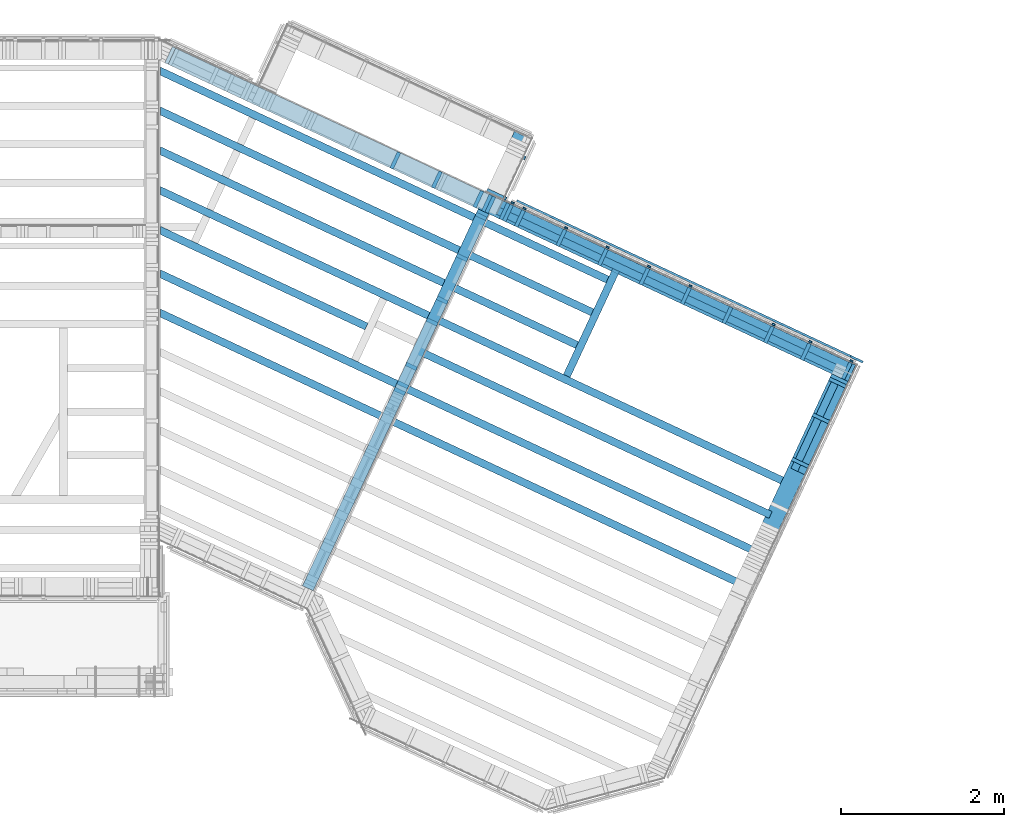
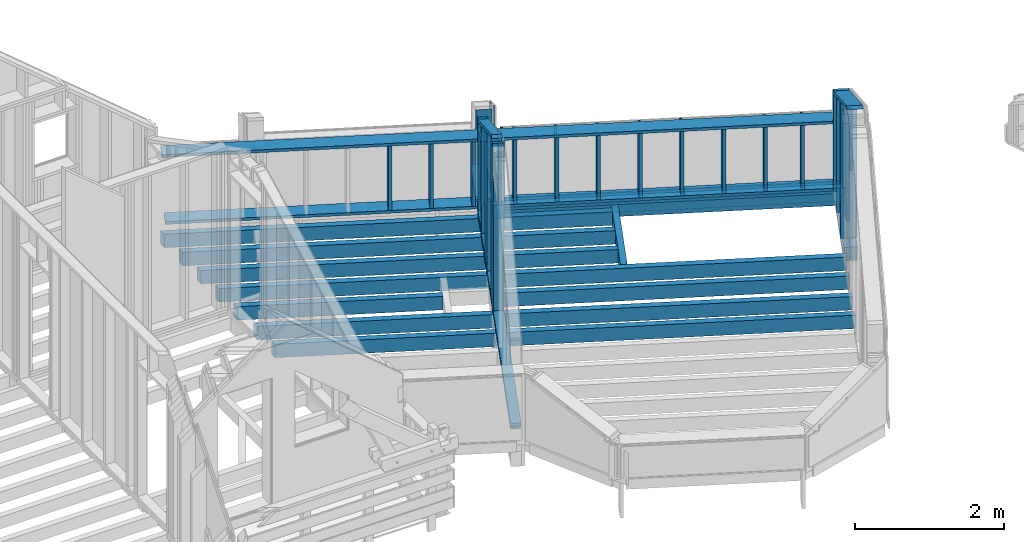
# One storey, part 9 of 24: 64 members.
"""IFC2X3 building model written with IfcOpenShell, lengths in metres."""

from ifc_helpers import new_model, si_unit, direction, frame, origin_with_axes, place, context, subcontext, project, spatial, faceted_brep, material, element, save


model = new_model("IFC2X3")

# Units and contexts
model_context = context("Model", 3, precision=1e-06, world=origin_with_axes(), true_north=direction((0.0, 1.0, 0.0)))
body_context = subcontext(model_context, "Body", "Model", "MODEL_VIEW")
ifc_project = project(units=[si_unit("LENGTHUNIT", "METRE"), si_unit("AREAUNIT", "SQUARE_METRE"), si_unit("VOLUMEUNIT", "CUBIC_METRE"), si_unit("PLANEANGLEUNIT", "RADIAN")], contexts=[model_context])

# Site, building, storey
site_placement = place(None, origin_with_axes())
site = spatial("IfcSite", under=ifc_project, at=site_placement, CompositionType="ELEMENT")
building_placement = place(site_placement, origin_with_axes())
building = spatial("IfcBuilding", under=site, at=building_placement, Name="Building 1", CompositionType="ELEMENT")
storey_placement = place(building_placement, origin_with_axes())
storey = spatial("IfcBuildingStorey", under=building, at=storey_placement, Name="Premier Etage", CompositionType="ELEMENT", Elevation=0.0)

# Members
ifc_material_1 = material(Name="NH II")
member_1_placement = place(storey_placement, frame((6.7085595, 6.0787803, 2.695), z_axis=(0.0, 0.0, -1.0), x_axis=(0.9063078, -0.4226183, 0.0)))
element("IfcMember", 1, at=member_1_placement, inside=storey, material=ifc_material_1, Name="Solive", context=body_context, shape_type="Brep", body=[
    faceted_brep([(0.0429003, 0.046, -0.11), (0.0, -0.046, -0.11), (0.0, -0.046, 0.11), (0.0429003, 0.046, 0.11), (8.4684881, -0.046, -0.11), (8.4684881, -0.046, 0.11), (8.4684881, 0.046, -0.11), (8.4684881, 0.046, 0.11)], [[[0, 1, 2, 3]], [[2, 1, 4, 5]], [[1, 0, 6, 4]], [[5, 4, 6, 7]], [[0, 3, 7, 6]], [[3, 2, 5, 7]]]),
])
ifc_material_2 = material(Name="Epicéa C24")
member_2_placement = place(storey_placement, frame((15.1871207, 3.9851601, 3.9860549), z_axis=(0.4226183, 0.9063078, 0.0), x_axis=(0.0, 0.0, -1.0)))
element("IfcMember", 2, at=member_2_placement, inside=storey, material=ifc_material_2, Name="latte 27/40", context=body_context, shape_type="Brep", body=[
    faceted_brep([(1.1360549, -0.02, -0.012), (1.1360549, -0.02, 0.012), (0.0, -0.02, 0.012), (0.0, -0.02, -0.012), (1.1360549, 0.02, -0.012), (0.0, 0.02, -0.012), (1.1360549, 0.02, 0.012), (0.0, 0.02, 0.012)], [[[0, 1, 2, 3]], [[4, 0, 3, 5]], [[6, 4, 5, 7]], [[1, 6, 7, 2]], [[4, 6, 1, 0]], [[2, 7, 5, 3]]]),
])
member_3_placement = place(storey_placement, frame((6.7085595, 7.0539681, 2.695), z_axis=(0.0, 0.0, -1.0), x_axis=(0.9063078, -0.4226183, 0.0)))
element("IfcMember", 3, at=member_3_placement, inside=storey, material=ifc_material_1, Name="Solive", context=body_context, shape_type="Brep", body=[
    faceted_brep([(0.0, -0.046, -0.11), (0.0, -0.046, 0.11), (0.0429003, 0.046, 0.11), (0.0429003, 0.046, -0.11), (5.8533161, -0.046, 0.11), (5.8533161, 0.046, 0.11), (5.8533161, -0.046, -0.11), (5.8533161, 0.046, -0.11)], [[[0, 1, 2, 3]], [[2, 1, 4, 5]], [[1, 0, 6, 4]], [[0, 3, 7, 6]], [[3, 2, 5, 7]], [[4, 6, 7, 5]]]),
])
member_4_placement = place(storey_placement, frame((10.8242673, 6.0300741, 4.3051126), z_axis=(0.9063078, -0.4226183, 0.0), x_axis=(0.0, 0.0, -1.0)))
element("IfcMember", 4, at=member_4_placement, inside=storey, material=ifc_material_2, Name="Montant", context=body_context, shape_type="Brep", body=[
    faceted_brep([(0.0259808, 0.0225, 0.11), (0.0, -0.0225, 0.11), (1.4101126, -0.0225, 0.11), (1.4101126, 0.0225, 0.11), (0.0, -0.0225, -0.11), (1.4101126, -0.0225, -0.11), (0.0259808, 0.0225, -0.11), (1.4101126, 0.0225, -0.11)], [[[0, 1, 2, 3]], [[1, 4, 5, 2]], [[4, 6, 7, 5]], [[6, 0, 3, 7]], [[0, 6, 4, 1]], [[5, 7, 3, 2]]]),
])
member_5_placement = place(storey_placement, frame((15.2529941, 4.0057499, 2.97), z_axis=(0.9063078, -0.4226183, 0.0), x_axis=(0.0, 0.0, 1.0)))
element("IfcMember", 5, at=member_5_placement, inside=storey, material=ifc_material_1, Name="contre poutre", context=body_context, shape_type="Brep", body=[
    faceted_brep([(1.0160549, 0.0135, -0.0825), (1.0160549, 0.0135, 0.0825), (1.0160549, -0.0135, 0.0825), (1.0160549, -0.0135, -0.0825), (0.0, 0.0135, 0.0825), (0.0, 0.0135, -0.0825), (0.0, -0.0135, -0.0825), (0.0, -0.0135, 0.0825)], [[[0, 1, 2, 3]], [[4, 5, 6, 7]], [[3, 6, 5, 0]], [[2, 7, 6, 3]], [[1, 4, 7, 2]], [[0, 5, 4, 1]]]),
])
member_6_placement = place(storey_placement, frame((15.0598284, 3.8955614, 2.8275), z_axis=(-0.4226183, -0.9063078, 0.0), x_axis=(-0.9063078, 0.4226183, 0.0)))
element("IfcMember", 6, at=member_6_placement, inside=storey, material=ifc_material_2, Name="Lisse basse", context=body_context, shape_type="Brep", body=[
    faceted_brep([(4.850806, -0.0225, 0.11), (4.850806, -0.0225, -0.11), (4.850806, 0.0225, -0.11), (4.850806, 0.0225, 0.11), (0.0, -0.0225, -0.11), (0.0, 0.0225, -0.11), (0.0, -0.0225, 0.11), (0.0, 0.0225, 0.11)], [[[0, 1, 2, 3]], [[2, 1, 4, 5]], [[1, 0, 6, 4]], [[0, 3, 7, 6]], [[4, 6, 7, 5]], [[3, 2, 5, 7]]]),
])
member_7_placement = place(storey_placement, frame((14.1309791, 1.8208207, 5.7137909), z_axis=(-0.9063078, 0.4226183, 0.0), x_axis=(0.3659982, 0.7848856, -0.5)))
element("IfcMember", 7, at=member_7_placement, inside=storey, material=ifc_material_2, Name="Montant", context=body_context, shape_type="Brep", body=[
    faceted_brep([(2.4585333, 0.0225, -0.11), (2.4585333, 0.0225, 0.11), (2.4325526, -0.0225, 0.11), (2.4325526, -0.0225, -0.11), (0.0, 0.0225, 0.11), (0.0779423, -0.0225, 0.11), (0.0, 0.0225, -0.11), (0.0779423, -0.0225, -0.11)], [[[0, 1, 2, 3]], [[2, 1, 4, 5]], [[1, 0, 6, 4]], [[7, 5, 4, 6]], [[3, 2, 5, 7]], [[0, 3, 7, 6]]]),
])
member_8_placement = place(storey_placement, frame((6.7085595, 4.5791368, 2.695), z_axis=(0.0, 0.0, -1.0), x_axis=(0.9063078, -0.4226183, 0.0)))
element("IfcMember", 8, at=member_8_placement, inside=storey, material=ifc_material_1, Name="Solive", context=body_context, shape_type="Brep", body=[
    faceted_brep([(0.0, -0.046, -0.11), (0.0, -0.046, 0.11), (0.0429003, 0.046, 0.11), (0.0429003, 0.046, -0.11), (7.8347114, -0.046, 0.11), (7.8347114, 0.046, 0.11), (7.8347114, -0.046, -0.11), (7.8347114, 0.046, -0.11)], [[[0, 1, 2, 3]], [[2, 1, 4, 5]], [[1, 0, 6, 4]], [[5, 4, 6, 7]], [[0, 3, 7, 6]], [[3, 2, 5, 7]]]),
])
member_9_placement = place(storey_placement, frame((10.6732155, 5.794875, 4.3473197), z_axis=(0.9063078, -0.4226183, 0.0), x_axis=(0.0, 0.0, -1.0)))
element("IfcMember", 9, at=member_9_placement, inside=storey, material=ifc_material_2, Name="Montant", context=body_context, shape_type="Brep", body=[
    faceted_brep([(0.0, -0.0225, 0.0725), (0.0, 0.0225, 0.0725), (0.0, 0.0225, -0.0725), (0.0, -0.0225, -0.0725), (1.4523197, 0.0225, 0.0725), (1.4523197, 0.0225, -0.0725), (1.4523197, -0.0225, 0.0725), (1.4523197, -0.0225, -0.0725)], [[[0, 1, 2, 3]], [[2, 1, 4, 5]], [[1, 0, 6, 4]], [[0, 3, 7, 6]], [[3, 2, 5, 7]], [[7, 5, 4, 6]]]),
])
member_10_placement = place(storey_placement, frame((15.0355522, 3.760684, 4.5170002), z_axis=(0.9063078, -0.4226183, 0.0), x_axis=(0.0, 0.0, -1.0)))
element("IfcMember", 10, at=member_10_placement, inside=storey, material=ifc_material_2, Name="Montant", context=body_context, shape_type="Brep", body=[
    faceted_brep([(0.0, 0.0225, -0.11), (0.0, -0.0225, -0.11), (0.0, -0.0225, 0.11), (0.0, 0.0225, 0.11), (1.6220002, -0.0225, -0.11), (1.6220002, -0.0225, 0.11), (1.6220002, 0.0225, -0.11), (1.6220002, 0.0225, 0.11)], [[[0, 1, 2, 3]], [[2, 1, 4, 5]], [[1, 0, 6, 4]], [[0, 3, 7, 6]], [[3, 2, 5, 7]], [[4, 6, 7, 5]]]),
])
member_11_placement = place(storey_placement, frame((15.191243, 3.8342818, 3.9685549), z_axis=(-0.4226183, -0.9063078, 0.0), x_axis=(-0.9063078, 0.4226183, 0.0)))
element("IfcMember", 11, at=member_11_placement, inside=storey, material=ifc_material_2, Name="Montant", context=body_context, shape_type="Brep", body=[
    faceted_brep([(9.2299483, 0.0225, 0.11), (9.2299483, -0.0225, 0.11), (9.2299483, -0.0225, -0.11), (9.2299483, 0.0225, -0.11), (0.0, -0.0225, 0.11), (0.0, -0.0225, -0.11), (0.0, 0.0225, 0.11), (0.0, 0.0225, -0.11)], [[[0, 1, 2, 3]], [[2, 1, 4, 5]], [[1, 0, 6, 4]], [[6, 7, 5, 4]], [[0, 3, 7, 6]], [[3, 2, 5, 7]]]),
])
member_12_placement = place(storey_placement, frame((14.6841199, 4.2197132, 3.9860549), z_axis=(0.4226183, 0.9063078, 0.0), x_axis=(0.0, 0.0, -1.0)))
element("IfcMember", 12, at=member_12_placement, inside=storey, material=ifc_material_2, Name="latte 27/40", context=body_context, shape_type="Brep", body=[
    faceted_brep([(1.1760549, -0.02, 0.012), (0.0, -0.02, 0.012), (0.0, -0.02, -0.012), (1.1760549, -0.02, -0.012), (1.1760549, 0.02, -0.012), (0.0, 0.02, -0.012), (0.0, 0.02, 0.012), (1.1760549, 0.02, 0.012)], [[[0, 1, 2, 3]], [[4, 3, 2, 5]], [[6, 7, 4, 5]], [[0, 7, 6, 1]], [[7, 0, 3, 4]], [[1, 6, 5, 2]]]),
])
member_13_placement = place(storey_placement, frame((15.1708511, 3.8437907, 3.9460549), z_axis=(0.4226183, 0.9063078, 0.0), x_axis=(0.0, 0.0, -1.0)))
element("IfcMember", 13, at=member_13_placement, inside=storey, material=ifc_material_2, Name="Montant", context=body_context, shape_type="Brep", body=[
    faceted_brep([(1.5960549, 0.0225, 0.11), (0.0, 0.0225, 0.11), (0.0, -0.0225, 0.11), (1.5960549, -0.0225, 0.11), (0.0, 0.0225, -0.11), (0.0, -0.0225, -0.11), (1.5960549, 0.0225, -0.11), (1.5960549, -0.0225, -0.11)], [[[0, 1, 2, 3]], [[1, 4, 5, 2]], [[6, 4, 1, 0]], [[7, 5, 4, 6]], [[3, 2, 5, 7]], [[6, 0, 3, 7]]]),
])
for number, where, z_axis, x_axis, name in (
    (14, (14.6270664, 4.0973617, 3.9460549), (0.4226183, 0.9063078, 0.0), (0.0, 0.0, -1.0), "Montant"),
    (15, (14.1765408, 4.3074452, 3.9460549), (0.4226183, 0.9063078, 0.0), (0.0, 0.0, -1.0), "Montant"),
    (16, (15.1300672, 3.8628085, 3.9460549), (0.4226183, 0.9063078, 0.0), (0.0, 0.0, -1.0), "Montant"),
):
    element("IfcMember", number, at=place(storey_placement, frame(where, z_axis=z_axis, x_axis=x_axis)), inside=storey, material=ifc_material_2, Name=name, context=body_context, shape_type="Brep", body=[
        faceted_brep([(1.0510549, -0.0225, -0.11), (1.0510549, 0.0225, -0.11), (1.0510549, 0.0225, 0.11), (1.0510549, -0.0225, 0.11), (0.0, -0.0225, 0.11), (0.0, -0.0225, -0.11), (0.0, 0.0225, -0.11), (0.0, 0.0225, 0.11)], [[[0, 1, 2, 3]], [[0, 3, 4, 5]], [[1, 0, 5, 6]], [[2, 1, 6, 7]], [[3, 2, 7, 4]], [[4, 7, 6, 5]]]),
    ])
member_14_placement = place(storey_placement, frame((15.1504591, 3.8532996, 2.8725), z_axis=(-0.4226183, -0.9063078, 0.0), x_axis=(-0.9063078, 0.4226183, 0.0)))
element("IfcMember", 17, at=member_14_placement, inside=storey, material=ifc_material_2, Name="Montant", context=body_context, shape_type="Brep", body=[
    faceted_brep([(9.1399483, -0.0225, -0.11), (9.1399483, 0.0225, -0.11), (9.1399483, 0.0225, 0.11), (9.1399483, -0.0225, 0.11), (0.0, 0.0225, -0.11), (0.0, 0.0225, 0.11), (0.0, -0.0225, -0.11), (0.0, -0.0225, 0.11)], [[[0, 1, 2, 3]], [[2, 1, 4, 5]], [[1, 0, 6, 4]], [[0, 3, 7, 6]], [[3, 2, 5, 7]], [[4, 6, 7, 5]]]),
])
member_15_placement = place(storey_placement, frame((11.0873262, 5.9482327, 2.7225), z_axis=(0.0, 0.0, -1.0), x_axis=(0.9063078, -0.4226183, 0.0)))
element("IfcMember", 18, at=member_15_placement, inside=storey, material=ifc_material_1, Name="contre poutre", context=body_context, shape_type="Brep", body=[
    faceted_brep([(4.513806, 0.0135, -0.0825), (4.513806, 0.0135, 0.0825), (4.513806, -0.0135, 0.0825), (4.513806, -0.0135, -0.0825), (0.0, 0.0135, 0.0825), (0.0, 0.0135, -0.0825), (0.0, -0.0135, -0.0825), (0.0, -0.0135, 0.0825)], [[[0, 1, 2, 3]], [[4, 5, 6, 7]], [[3, 6, 5, 0]], [[2, 7, 6, 3]], [[1, 4, 7, 2]], [[0, 5, 4, 1]]]),
])
member_16_placement = place(storey_placement, frame((9.6022242, 6.440484, 3.9460549), z_axis=(0.4226183, 0.9063078, 0.0), x_axis=(0.0, 0.0, -1.0)))
element("IfcMember", 19, at=member_16_placement, inside=storey, material=ifc_material_2, Name="Montant", context=body_context, shape_type="Brep", body=[
    faceted_brep([(1.0510549, -0.0225, -0.11), (1.0510549, 0.0225, -0.11), (1.0510549, 0.0225, 0.11), (1.0510549, -0.0225, 0.11), (0.0, -0.0225, 0.11), (0.0, -0.0225, -0.11), (0.0, 0.0225, -0.11), (0.0, 0.0225, 0.11)], [[[0, 1, 2, 3]], [[0, 3, 4, 5]], [[1, 0, 5, 6]], [[2, 1, 6, 7]], [[3, 2, 7, 4]], [[4, 7, 6, 5]]]),
])
member_17_placement = place(storey_placement, frame((10.809687, 5.9988065, 2.8275), z_axis=(-0.9063078, 0.4226183, 0.0), x_axis=(0.4226183, 0.9063078, 0.0)))
element("IfcMember", 20, at=member_17_placement, inside=storey, material=ifc_material_2, Name="Lisse basse", context=body_context, shape_type="Brep", body=[
    faceted_brep([(0.0, 0.0225, -0.11), (0.8282178, 0.0225, -0.11), (0.8282178, -0.0225, -0.11), (0.0, -0.0225, -0.11), (0.0, 0.0225, 0.11), (0.8282178, 0.0225, 0.11), (0.0, -0.0225, 0.11), (0.8282178, -0.0225, 0.11)], [[[0, 1, 2, 3]], [[4, 5, 1, 0]], [[6, 7, 5, 4]], [[3, 2, 7, 6]], [[7, 2, 1, 5]], [[3, 6, 4, 0]]]),
])
member_18_placement = place(storey_placement, frame((13.2170795, 4.9038054, 3.9860549), z_axis=(0.4226183, 0.9063078, 0.0), x_axis=(0.0, 0.0, -1.0)))
element("IfcMember", 21, at=member_18_placement, inside=storey, material=ifc_material_2, Name="latte 27/40", context=body_context, shape_type="Brep", body=[
    faceted_brep([(1.1760549, -0.02, 0.012), (0.0, -0.02, 0.012), (0.0, -0.02, -0.012), (1.1760549, -0.02, -0.012), (1.1760549, 0.02, -0.012), (0.0, 0.02, -0.012), (0.0, 0.02, 0.012), (1.1760549, 0.02, 0.012)], [[[0, 1, 2, 3]], [[4, 3, 2, 5]], [[6, 7, 4, 5]], [[0, 7, 6, 1]], [[7, 0, 3, 4]], [[1, 6, 5, 2]]]),
])
member_19_placement = place(storey_placement, frame((11.7010775, 3.8014864, 2.695), z_axis=(0.0, 0.0, -1.0), x_axis=(0.4226183, 0.9063078, 0.0)))
element("IfcMember", 22, at=member_19_placement, inside=storey, material=ifc_material_1, Name="Solive", context=body_context, shape_type="Brep", body=[
    faceted_brep([(0.0, 0.046, 0.11), (0.0, 0.046, -0.11), (0.0, -0.046, -0.11), (0.0, -0.046, 0.11), (1.4307304, 0.046, -0.11), (1.4307304, 0.046, 0.11), (1.4307304, -0.046, 0.11), (1.4307304, -0.046, -0.11)], [[[0, 1, 2, 3]], [[4, 5, 6, 7]], [[3, 6, 5, 0]], [[2, 7, 6, 3]], [[1, 4, 7, 2]], [[0, 5, 4, 1]]]),
])
member_20_placement = place(storey_placement, frame((8.53117, 1.2012435, 2.8725), z_axis=(-0.9063078, 0.4226183, 0.0), x_axis=(0.4226183, 0.9063078, 0.0)))
element("IfcMember", 23, at=member_20_placement, inside=storey, material=ifc_material_2, Name="Montant", context=body_context, shape_type="Brep", body=[
    faceted_brep([(0.0, 0.0225, -0.0725), (5.0910115, 0.0225, -0.0725), (5.0910115, -0.0225, -0.0725), (0.0, -0.0225, -0.0725), (5.0910115, -0.0225, 0.0725), (0.0, -0.0225, 0.0725), (5.0910115, 0.0225, 0.0725), (0.0, 0.0225, 0.0725)], [[[0, 1, 2, 3]], [[4, 5, 3, 2]], [[6, 4, 2, 1]], [[7, 6, 1, 0]], [[5, 4, 6, 7]], [[5, 7, 0, 3]]]),
])
member_21_placement = place(storey_placement, frame((10.0517505, 4.462139, 5.1443584), z_axis=(0.9063078, -0.4226183, 0.0), x_axis=(0.0, 0.0, -1.0)))
element("IfcMember", 24, at=member_21_placement, inside=storey, material=ifc_material_2, Name="Montant", context=body_context, shape_type="Brep", body=[
    faceted_brep([(2.2493584, -0.0225, 0.0725), (2.2493584, 0.0225, 0.0725), (0.0259808, 0.0225, 0.0725), (0.0, -0.0225, 0.0725), (0.0, -0.0225, -0.0725), (0.0259808, 0.0225, -0.0725), (2.2493584, -0.0225, -0.0725), (2.2493584, 0.0225, -0.0725)], [[[0, 1, 2, 3]], [[4, 3, 2, 5]], [[3, 4, 6, 0]], [[6, 7, 1, 0]], [[4, 5, 7, 6]], [[5, 2, 1, 7]]]),
])
member_22_placement = place(storey_placement, frame((8.53117, 1.2012435, 2.8275), z_axis=(-0.9063078, 0.4226183, 0.0), x_axis=(0.4226183, 0.9063078, 0.0)))
element("IfcMember", 25, at=member_22_placement, inside=storey, material=ifc_material_2, Name="Lisse basse", context=body_context, shape_type="Brep", body=[
    faceted_brep([(0.0, 0.0225, -0.0725), (5.0910115, 0.0225, -0.0725), (5.0910115, -0.0225, -0.0725), (0.0, -0.0225, -0.0725), (5.0910115, -0.0225, 0.0725), (0.0, -0.0225, 0.0725), (5.0910115, 0.0225, 0.0725), (0.0, 0.0225, 0.0725)], [[[0, 1, 2, 3]], [[4, 5, 3, 2]], [[6, 4, 2, 1]], [[7, 6, 1, 0]], [[5, 4, 6, 7]], [[5, 7, 0, 3]]]),
])
member_23_placement = place(storey_placement, frame((15.0165344, 3.7199002, 4.4910194), z_axis=(0.9063078, -0.4226183, 0.0), x_axis=(0.0, 0.0, -1.0)))
element("IfcMember", 26, at=member_23_placement, inside=storey, material=ifc_material_2, Name="Montant", context=body_context, shape_type="Brep", body=[
    faceted_brep([(0.0, -0.0225, 0.11), (0.0259808, 0.0225, 0.11), (0.0259808, 0.0225, -0.11), (0.0, -0.0225, -0.11), (1.5960194, 0.0225, 0.11), (1.5960194, 0.0225, -0.11), (1.5960194, -0.0225, 0.11), (1.5960194, -0.0225, -0.11)], [[[0, 1, 2, 3]], [[2, 1, 4, 5]], [[1, 0, 6, 4]], [[0, 3, 7, 6]], [[7, 5, 4, 6]], [[3, 2, 5, 7]]]),
])
member_24_placement = place(storey_placement, frame((6.7085595, 7.541562, 2.695), z_axis=(0.0, 0.0, -1.0), x_axis=(0.9063078, -0.4226183, 0.0)))
element("IfcMember", 27, at=member_24_placement, inside=storey, material=ifc_material_1, Name="Solive", context=body_context, shape_type="Brep", body=[
    faceted_brep([(0.0, -0.046, -0.11), (0.0, -0.046, 0.11), (0.0429003, 0.046, 0.11), (0.0429003, 0.046, -0.11), (6.0593821, -0.046, 0.11), (6.0593821, 0.046, 0.11), (6.0593821, -0.046, -0.11), (6.0593821, 0.046, -0.11)], [[[0, 1, 2, 3]], [[2, 1, 4, 5]], [[1, 0, 6, 4]], [[0, 3, 7, 6]], [[3, 2, 5, 7]], [[4, 6, 7, 5]]]),
])
member_25_placement = place(storey_placement, frame((10.7246809, 5.9170739, 3.9460549), z_axis=(0.4226183, 0.9063078, 0.0), x_axis=(0.0, 0.0, -1.0)))
element("IfcMember", 28, at=member_25_placement, inside=storey, material=ifc_material_2, Name="Montant", context=body_context, shape_type="Brep", body=[
    faceted_brep([(1.0510549, -0.0225, -0.11), (1.0510549, 0.0225, -0.11), (1.0510549, 0.0225, 0.11), (1.0510549, -0.0225, 0.11), (0.0, -0.0225, 0.11), (0.0, -0.0225, -0.11), (0.0, 0.0225, -0.11), (0.0, 0.0225, 0.11)], [[[0, 1, 2, 3]], [[0, 3, 4, 5]], [[1, 0, 5, 6]], [[2, 1, 6, 7]], [[3, 2, 7, 4]], [[4, 7, 6, 5]]]),
])
member_26_placement = place(storey_placement, frame((15.0348988, 3.8255363, 2.695), z_axis=(0.0, 0.0, -1.0), x_axis=(-0.4226183, -0.9063078, 0.0)))
element("IfcMember", 29, at=member_26_placement, inside=storey, material=ifc_material_1, Name="Solive", context=body_context, shape_type="Brep", body=[
    faceted_brep([(1.2957304, -0.046, 0.11), (1.2957304, -0.046, -0.11), (1.2957304, 0.046, -0.11), (1.2957304, 0.046, 0.11), (0.0, -0.046, -0.11), (0.0, -0.046, 0.11), (0.0, 0.046, 0.11), (0.0, 0.046, -0.11)], [[[0, 1, 2, 3]], [[4, 5, 6, 7]], [[3, 6, 5, 0]], [[2, 7, 6, 3]], [[1, 4, 7, 2]], [[0, 5, 4, 1]]]),
])
for number, where, z_axis, x_axis, name in (
    (30, (12.6517686, 5.0184581, 3.9460549), (0.4226183, 0.9063078, 0.0), (0.0, 0.0, -1.0), "Montant"),
    (31, (13.6682834, 4.5444495, 3.9460549), (0.4226183, 0.9063078, 0.0), (0.0, 0.0, -1.0), "Montant"),
):
    element("IfcMember", number, at=place(storey_placement, frame(where, z_axis=z_axis, x_axis=x_axis)), inside=storey, material=ifc_material_2, Name=name, context=body_context, shape_type="Brep", body=[
        faceted_brep([(1.0510549, -0.0225, -0.11), (1.0510549, 0.0225, -0.11), (1.0510549, 0.0225, 0.11), (1.0510549, -0.0225, 0.11), (0.0, -0.0225, 0.11), (0.0, -0.0225, -0.11), (0.0, 0.0225, -0.11), (0.0, 0.0225, 0.11)], [[[0, 1, 2, 3]], [[0, 3, 4, 5]], [[1, 0, 5, 6]], [[2, 1, 6, 7]], [[3, 2, 7, 4]], [[4, 7, 6, 5]]]),
    ])
member_27_placement = place(storey_placement, frame((15.1960408, 3.9534161, 2.695), z_axis=(0.0, 0.0, -1.0), x_axis=(-0.4226183, -0.9063078, 0.0)))
element("IfcMember", 32, at=member_27_placement, inside=storey, material=ifc_material_1, Name="Ceinture", context=body_context, shape_type="Brep", body=[
    faceted_brep([(0.092, 0.046, -0.11), (0.092, -0.046, -0.11), (0.092, -0.046, 0.0), (0.092, 0.046, 0.0), (0.0, 0.046, 0.0), (0.0, -0.046, 0.0), (1.4797304, 0.046, -0.11), (1.4797304, -0.046, -0.11), (0.0, 0.046, 0.11), (1.4797304, 0.046, 0.11), (1.4797304, -0.046, 0.11), (0.0, -0.046, 0.11)], [[[0, 1, 2, 3]], [[4, 3, 2, 5]], [[1, 0, 6, 7]], [[0, 3, 4, 8, 9, 6]], [[7, 6, 9, 10]], [[2, 1, 7, 10, 11, 5]], [[10, 9, 8, 11]], [[4, 5, 11, 8]]]),
])
member_28_placement = place(storey_placement, frame((9.739088, 3.791632, 5.5844856), z_axis=(-0.9063078, 0.4226183, 0.0), x_axis=(0.3659982, 0.7848856, -0.5)))
element("IfcMember", 33, at=member_28_placement, inside=storey, material=ifc_material_2, Name="Montant", context=body_context, shape_type="Brep", body=[
    faceted_brep([(2.5392836, 0.0225, -0.0725), (2.5392836, 0.0225, 0.0725), (2.5133028, -0.0225, 0.0725), (2.5133028, -0.0225, -0.0725), (0.0, 0.0225, 0.0725), (0.0779423, -0.0225, 0.0725), (0.0, 0.0225, -0.0725), (0.0779423, -0.0225, -0.0725)], [[[0, 1, 2, 3]], [[2, 1, 4, 5]], [[1, 0, 6, 4]], [[7, 5, 4, 6]], [[3, 2, 5, 7]], [[0, 3, 7, 6]]]),
])
member_29_placement = place(storey_placement, frame((10.7654648, 5.8980561, 3.9460549), z_axis=(0.4226183, 0.9063078, 0.0), x_axis=(0.0, 0.0, -1.0)))
element("IfcMember", 34, at=member_29_placement, inside=storey, material=ifc_material_2, Name="Montant", context=body_context, shape_type="Brep", body=[
    faceted_brep([(1.0510549, -0.0225, -0.11), (1.0510549, 0.0225, -0.11), (1.0510549, 0.0225, 0.11), (1.0510549, -0.0225, 0.11), (0.0, -0.0225, 0.11), (0.0, -0.0225, -0.11), (0.0, 0.0225, -0.11), (0.0, 0.0225, 0.11)], [[[0, 1, 2, 3]], [[0, 3, 4, 5]], [[1, 0, 5, 6]], [[2, 1, 6, 7]], [[3, 2, 7, 4]], [[4, 7, 6, 5]]]),
])
member_30_placement = place(storey_placement, frame((9.6555623, 3.6125105, 5.061), z_axis=(0.9063078, -0.4226183, 0.0), x_axis=(0.0, 0.0, -1.0)))
element("IfcMember", 35, at=member_30_placement, inside=storey, material=ifc_material_2, Name="Montant", context=body_context, shape_type="Brep", body=[
    faceted_brep([(2.166, -0.0225, -0.0725), (2.166, 0.0225, -0.0725), (2.166, 0.0225, 0.0725), (2.166, -0.0225, 0.0725), (0.0, -0.0225, 0.0725), (0.0, -0.0225, -0.0725), (0.0, 0.0225, -0.0725), (0.0, 0.0225, 0.0725)], [[[0, 1, 2, 3]], [[0, 3, 4, 5]], [[1, 0, 5, 6]], [[2, 1, 6, 7]], [[3, 2, 7, 4]], [[4, 7, 6, 5]]]),
])
member_31_placement = place(storey_placement, frame((10.9403822, 5.8164907, 3.9460549), z_axis=(0.4226183, 0.9063078, 0.0), x_axis=(0.0, 0.0, -1.0)))
element("IfcMember", 36, at=member_31_placement, inside=storey, material=ifc_material_2, Name="Montant", context=body_context, shape_type="Brep", body=[
    faceted_brep([(1.0510549, -0.0225, -0.11), (1.0510549, 0.0225, -0.11), (1.0510549, 0.0225, 0.11), (1.0510549, -0.0225, 0.11), (0.0, -0.0225, 0.11), (0.0, -0.0225, -0.11), (0.0, 0.0225, -0.11), (0.0, 0.0225, 0.11)], [[[0, 1, 2, 3]], [[0, 3, 4, 5]], [[1, 0, 5, 6]], [[2, 1, 6, 7]], [[3, 2, 7, 4]], [[4, 7, 6, 5]]]),
])
member_32_placement = place(storey_placement, frame((9.6935979, 3.6940782, 5.565), z_axis=(0.9063078, -0.4226183, 0.0), x_axis=(0.0, 0.0, -1.0)))
element("IfcMember", 37, at=member_32_placement, inside=storey, material=ifc_material_2, Name="Montant", context=body_context, shape_type="Brep", body=[
    faceted_brep([(2.67, -0.0225, -0.0725), (2.67, 0.0225, -0.0725), (2.67, 0.0225, 0.0725), (2.67, -0.0225, 0.0725), (0.0, -0.0225, 0.0725), (0.0, -0.0225, -0.0725), (0.0, 0.0225, -0.0725), (0.0, 0.0225, 0.0725)], [[[0, 1, 2, 3]], [[0, 3, 4, 5]], [[1, 0, 5, 6]], [[2, 1, 6, 7]], [[3, 2, 7, 4]], [[4, 7, 6, 5]]]),
])
for number, where, z_axis, x_axis, name in (
    (38, (10.981166, 5.7974729, 3.9460549), (0.4226183, 0.9063078, 0.0), (0.0, 0.0, -1.0), "Montant"),
    (39, (13.160026, 4.7814538, 3.9460549), (0.4226183, 0.9063078, 0.0), (0.0, 0.0, -1.0), "Montant"),
):
    element("IfcMember", number, at=place(storey_placement, frame(where, z_axis=z_axis, x_axis=x_axis)), inside=storey, material=ifc_material_2, Name=name, context=body_context, shape_type="Brep", body=[
        faceted_brep([(1.0510549, -0.0225, -0.11), (1.0510549, 0.0225, -0.11), (1.0510549, 0.0225, 0.11), (1.0510549, -0.0225, 0.11), (0.0, -0.0225, 0.11), (0.0, -0.0225, -0.11), (0.0, 0.0225, -0.11), (0.0, 0.0225, 0.11)], [[[0, 1, 2, 3]], [[0, 3, 4, 5]], [[1, 0, 5, 6]], [[2, 1, 6, 7]], [[3, 2, 7, 4]], [[4, 7, 6, 5]]]),
    ])
member_33_placement = place(storey_placement, frame((10.1764278, 4.7295102, 4.9740334), z_axis=(0.9063078, -0.4226183, 0.0), x_axis=(0.0, 0.0, -1.0)))
element("IfcMember", 40, at=member_33_placement, inside=storey, material=ifc_material_2, Name="Montant", context=body_context, shape_type="Brep", body=[
    faceted_brep([(0.0259808, 0.0225, -0.0725), (0.0, -0.0225, -0.0725), (0.0, -0.0225, 0.0725), (0.0259808, 0.0225, 0.0725), (2.0790334, -0.0225, -0.0725), (2.0790334, -0.0225, 0.0725), (2.0790334, 0.0225, -0.0725), (2.0790334, 0.0225, 0.0725)], [[[0, 1, 2, 3]], [[2, 1, 4, 5]], [[1, 0, 6, 4]], [[0, 3, 7, 6]], [[3, 2, 5, 7]], [[4, 6, 7, 5]]]),
])
member_34_placement = place(storey_placement, frame((11.1795736, 6.4725936, 4.014291), z_axis=(0.9063078, -0.4226183, 0.0), x_axis=(0.0, 0.0, -1.0)))
element("IfcMember", 41, at=member_34_placement, inside=storey, material=ifc_material_2, Name="latte 27/40", context=body_context, shape_type="Brep", body=[
    faceted_brep([(1.204291, 0.02, -0.012), (1.204291, 0.02, 0.012), (1.204291, -0.02, 0.012), (1.204291, -0.02, -0.012), (0.0, 0.02, 0.012), (0.0, 0.02, -0.012), (0.0, -0.02, -0.012), (0.0, -0.02, 0.012)], [[[0, 1, 2, 3]], [[4, 5, 6, 7]], [[3, 6, 5, 0]], [[2, 7, 6, 3]], [[1, 4, 7, 2]], [[0, 5, 4, 1]]]),
])
member_35_placement = place(storey_placement, frame((10.9476754, 5.9752864, 4.3310934), z_axis=(0.9063078, -0.4226183, 0.0), x_axis=(0.0, 0.0, -1.0)))
element("IfcMember", 42, at=member_35_placement, inside=storey, material=ifc_material_2, Name="latte 27/40", context=body_context, shape_type="Brep", body=[
    faceted_brep([(1.5210934, 0.02, -0.012), (1.5210934, 0.02, 0.012), (1.5210934, -0.02, 0.012), (1.5210934, -0.02, -0.012), (0.0, 0.02, 0.012), (0.0, 0.02, -0.012), (0.0, -0.02, -0.012), (0.0, -0.02, 0.012)], [[[0, 1, 2, 3]], [[4, 5, 6, 7]], [[3, 6, 5, 0]], [[2, 7, 6, 3]], [[1, 4, 7, 2]], [[0, 5, 4, 1]]]),
])
member_36_placement = place(storey_placement, frame((10.4196446, 5.2510903, 4.6417684), z_axis=(0.9063078, -0.4226183, 0.0), x_axis=(0.0, 0.0, -1.0)))
element("IfcMember", 43, at=member_36_placement, inside=storey, material=ifc_material_2, Name="Montant", context=body_context, shape_type="Brep", body=[
    faceted_brep([(0.0259808, 0.0225, -0.0725), (0.0, -0.0225, -0.0725), (0.0, -0.0225, 0.0725), (0.0259808, 0.0225, 0.0725), (1.7467684, -0.0225, -0.0725), (1.7467684, -0.0225, 0.0725), (1.7467684, 0.0225, -0.0725), (1.7467684, 0.0225, 0.0725)], [[[0, 1, 2, 3]], [[2, 1, 4, 5]], [[1, 0, 6, 4]], [[0, 3, 7, 6]], [[3, 2, 5, 7]], [[4, 6, 7, 5]]]),
])
member_37_placement = place(storey_placement, frame((9.7981795, 3.9183543, 5.4907686), z_axis=(0.9063078, -0.4226183, 0.0), x_axis=(0.0, 0.0, -1.0)))
element("IfcMember", 44, at=member_37_placement, inside=storey, material=ifc_material_2, Name="Montant", context=body_context, shape_type="Brep", body=[
    faceted_brep([(0.0, -0.0225, -0.0725), (0.0, -0.0225, 0.0725), (0.0259808, 0.0225, 0.0725), (0.0259808, 0.0225, -0.0725), (2.5957686, -0.0225, 0.0725), (2.5957686, 0.0225, 0.0725), (2.5957686, -0.0225, -0.0725), (2.5957686, 0.0225, -0.0725)], [[[0, 1, 2, 3]], [[2, 1, 4, 5]], [[1, 0, 6, 4]], [[6, 7, 5, 4]], [[0, 3, 7, 6]], [[3, 2, 5, 7]]]),
])
member_38_placement = place(storey_placement, frame((10.6541977, 5.7540912, 4.321339), z_axis=(0.9063078, -0.4226183, 0.0), x_axis=(0.0, 0.0, -1.0)))
element("IfcMember", 45, at=member_38_placement, inside=storey, material=ifc_material_2, Name="Montant", context=body_context, shape_type="Brep", body=[
    faceted_brep([(0.0, -0.0225, 0.0725), (0.0259808, 0.0225, 0.0725), (0.0259808, 0.0225, -0.0725), (0.0, -0.0225, -0.0725), (1.426339, 0.0225, 0.0725), (1.426339, 0.0225, -0.0725), (1.426339, -0.0225, 0.0725), (1.426339, -0.0225, -0.0725)], [[[0, 1, 2, 3]], [[2, 1, 4, 5]], [[1, 0, 6, 4]], [[0, 3, 7, 6]], [[7, 5, 4, 6]], [[3, 2, 5, 7]]]),
])
member_39_placement = place(storey_placement, frame((14.5589646, 2.7386386, 5.1161179), z_axis=(0.9063078, -0.4226183, 0.0), x_axis=(0.0, 0.0, -1.0)))
element("IfcMember", 46, at=member_39_placement, inside=storey, material=ifc_material_2, Name="Montant", context=body_context, shape_type="Brep", body=[
    faceted_brep([(0.0, -0.0225, -0.11), (0.0, -0.0225, 0.11), (0.0259808, 0.0225, 0.11), (0.0259808, 0.0225, -0.11), (2.2211179, -0.0225, 0.11), (2.2211179, 0.0225, 0.11), (2.2211179, -0.0225, -0.11), (2.2211179, 0.0225, -0.11)], [[[0, 1, 2, 3]], [[2, 1, 4, 5]], [[1, 0, 6, 4]], [[6, 7, 5, 4]], [[0, 3, 7, 6]], [[3, 2, 5, 7]]]),
])
member_40_placement = place(storey_placement, frame((6.7085595, 5.5911864, 2.695), z_axis=(0.0, 0.0, -1.0), x_axis=(0.9063078, -0.4226183, 0.0)))
element("IfcMember", 47, at=member_40_placement, inside=storey, material=ifc_material_1, Name="Solive", context=body_context, shape_type="Brep", body=[
    faceted_brep([(2.8026161, -0.046, -0.11), (2.8026161, 0.046, -0.11), (2.8026161, 0.046, 0.11), (2.8026161, -0.046, 0.11), (0.0429003, 0.046, -0.11), (0.0429003, 0.046, 0.11), (0.0, -0.046, -0.11), (0.0, -0.046, 0.11)], [[[0, 1, 2, 3]], [[2, 1, 4, 5]], [[1, 0, 6, 4]], [[0, 3, 7, 6]], [[4, 6, 7, 5]], [[3, 2, 5, 7]]]),
])
member_41_placement = place(storey_placement, frame((10.8899404, 5.9106283, 2.695), z_axis=(0.0, 0.0, -1.0), x_axis=(0.9063078, -0.4226183, 0.0)))
element("IfcMember", 48, at=member_41_placement, inside=storey, material=ifc_material_1, Name="Ceinture", context=body_context, shape_type="Brep", body=[
    faceted_brep([(4.683806, 0.046, 0.0), (4.683806, -0.046, 0.0), (4.775806, -0.046, 0.0), (4.775806, 0.046, 0.0), (4.683806, 0.046, 0.11), (4.683806, -0.046, 0.11), (0.0, 0.046, 0.11), (0.0, -0.046, 0.11), (4.775806, -0.046, -0.11), (4.775806, 0.046, -0.11), (0.0, -0.046, -0.11), (0.0, 0.046, -0.11)], [[[0, 1, 2, 3]], [[0, 4, 5, 1]], [[5, 4, 6, 7]], [[3, 2, 8, 9]], [[10, 7, 6, 11]], [[4, 0, 3, 9, 11, 6]], [[8, 10, 11, 9]], [[1, 5, 7, 10, 8, 2]]]),
])
member_42_placement = place(storey_placement, frame((10.8510595, 5.827248, 2.695), z_axis=(0.0, 0.0, -1.0), x_axis=(0.9063078, -0.4226183, 0.0)))
element("IfcMember", 49, at=member_42_placement, inside=storey, material=ifc_material_1, Name="Ceinture", context=body_context, shape_type="Brep", body=[
    faceted_brep([(4.683806, -0.046, 0.11), (4.683806, -0.046, -0.11), (4.683806, 0.046, -0.11), (4.683806, 0.046, 0.11), (0.0, -0.046, -0.11), (0.0, -0.046, 0.11), (0.0, 0.046, 0.11), (0.0, 0.046, -0.11)], [[[0, 1, 2, 3]], [[4, 5, 6, 7]], [[3, 6, 5, 0]], [[2, 7, 6, 3]], [[1, 4, 7, 2]], [[0, 5, 4, 1]]]),
])
member_43_placement = place(storey_placement, frame((14.8125355, 3.2824232, 4.7697077), z_axis=(0.9063078, -0.4226183, 0.0), x_axis=(0.0, 0.0, -1.0)))
element("IfcMember", 50, at=member_43_placement, inside=storey, material=ifc_material_2, Name="Montant", context=body_context, shape_type="Brep", body=[
    faceted_brep([(1.8747077, -0.0225, 0.11), (1.8747077, 0.0225, 0.11), (0.0259808, 0.0225, 0.11), (0.0, -0.0225, 0.11), (0.0, -0.0225, -0.11), (0.0259808, 0.0225, -0.11), (1.8747077, -0.0225, -0.11), (1.8747077, 0.0225, -0.11)], [[[0, 1, 2, 3]], [[4, 3, 2, 5]], [[3, 4, 6, 0]], [[6, 7, 1, 0]], [[4, 5, 7, 6]], [[5, 2, 1, 7]]]),
])
member_44_placement = place(storey_placement, frame((12.1435112, 5.2554625, 3.9460549), z_axis=(0.4226183, 0.9063078, 0.0), x_axis=(0.0, 0.0, -1.0)))
element("IfcMember", 51, at=member_44_placement, inside=storey, material=ifc_material_2, Name="Montant", context=body_context, shape_type="Brep", body=[
    faceted_brep([(1.0510549, -0.0225, -0.11), (1.0510549, 0.0225, -0.11), (1.0510549, 0.0225, 0.11), (1.0510549, -0.0225, 0.11), (0.0, -0.0225, 0.11), (0.0, -0.0225, -0.11), (0.0, 0.0225, -0.11), (0.0, 0.0225, 0.11)], [[[0, 1, 2, 3]], [[0, 3, 4, 5]], [[1, 0, 5, 6]], [[2, 1, 6, 7]], [[3, 2, 7, 4]], [[4, 7, 6, 5]]]),
])
member_45_placement = place(storey_placement, frame((6.7085595, 6.5663742, 2.695), z_axis=(0.0, 0.0, -1.0), x_axis=(0.9063078, -0.4226183, 0.0)))
element("IfcMember", 52, at=member_45_placement, inside=storey, material=ifc_material_1, Name="Solive", context=body_context, shape_type="Brep", body=[
    faceted_brep([(0.0, -0.046, -0.11), (0.0, -0.046, 0.11), (0.0429003, 0.046, 0.11), (0.0429003, 0.046, -0.11), (5.64725, -0.046, 0.11), (5.64725, 0.046, 0.11), (5.64725, -0.046, -0.11), (5.64725, 0.046, -0.11)], [[[0, 1, 2, 3]], [[2, 1, 4, 5]], [[1, 0, 6, 4]], [[0, 3, 7, 6]], [[3, 2, 5, 7]], [[4, 6, 7, 5]]]),
])
for number, where, z_axis, x_axis, name in (
    (53, (14.2335943, 4.4297967, 3.9860549), (0.4226183, 0.9063078, 0.0), (0.0, 0.0, -1.0), "latte 27/40"),
    (54, (12.7088221, 5.1408097, 3.9860549), (0.4226183, 0.9063078, 0.0), (0.0, 0.0, -1.0), "latte 27/40"),
):
    element("IfcMember", number, at=place(storey_placement, frame(where, z_axis=z_axis, x_axis=x_axis)), inside=storey, material=ifc_material_2, Name=name, context=body_context, shape_type="Brep", body=[
        faceted_brep([(1.1760549, -0.02, 0.012), (0.0, -0.02, 0.012), (0.0, -0.02, -0.012), (1.1760549, -0.02, -0.012), (1.1760549, 0.02, -0.012), (0.0, 0.02, -0.012), (0.0, 0.02, 0.012), (1.1760549, 0.02, 0.012)], [[[0, 1, 2, 3]], [[4, 3, 2, 5]], [[6, 7, 4, 5]], [[0, 7, 6, 1]], [[7, 0, 3, 4]], [[1, 6, 5, 2]]]),
    ])
member_46_placement = place(storey_placement, frame((6.7085595, 5.0593583, 2.695), z_axis=(0.0, 0.0, -1.0), x_axis=(0.9063078, -0.4226183, 0.0)))
element("IfcMember", 55, at=member_46_placement, inside=storey, material=ifc_material_1, Name="Solive", context=body_context, shape_type="Brep", body=[
    faceted_brep([(0.0, -0.046, -0.11), (0.0, -0.046, 0.11), (0.0429003, 0.046, 0.11), (0.0429003, 0.046, -0.11), (8.0376618, -0.046, 0.11), (8.0376618, 0.046, 0.11), (8.0376618, -0.046, -0.11), (8.0376618, 0.046, -0.11)], [[[0, 1, 2, 3]], [[2, 1, 4, 5]], [[1, 0, 6, 4]], [[5, 4, 6, 7]], [[0, 3, 7, 6]], [[3, 2, 5, 7]]]),
])
member_47_placement = place(storey_placement, frame((9.8997745, 4.1030985, 2.695), z_axis=(0.0, 0.0, -1.0), x_axis=(0.9063078, -0.4226183, 0.0)))
element("IfcMember", 56, at=member_47_placement, inside=storey, material=ifc_material_1, Name="Solive", context=body_context, shape_type="Brep", body=[
    faceted_brep([(0.0, -0.046, -0.11), (0.0, -0.046, 0.11), (0.0, 0.046, 0.11), (0.0, 0.046, -0.11), (4.741306, -0.046, 0.11), (4.741306, 0.046, 0.11), (4.741306, -0.046, -0.11), (4.741306, 0.046, -0.11)], [[[0, 1, 2, 3]], [[2, 1, 4, 5]], [[1, 0, 6, 4]], [[0, 3, 7, 6]], [[4, 6, 7, 5]], [[3, 2, 5, 7]]]),
])
for number, where, z_axis, x_axis, name in (
    (57, (11.6352538, 5.4924668, 3.9460549), (0.4226183, 0.9063078, 0.0), (0.0, 0.0, -1.0), "Montant"),
    (58, (11.1269964, 5.7294711, 3.9460549), (0.4226183, 0.9063078, 0.0), (0.0, 0.0, -1.0), "Montant"),
    (59, (10.618739, 5.9664754, 3.9460549), (0.4226183, 0.9063078, 0.0), (0.0, 0.0, -1.0), "Montant"),
    (60, (10.1104816, 6.2034797, 3.9460549), (0.4226183, 0.9063078, 0.0), (0.0, 0.0, -1.0), "Montant"),
):
    element("IfcMember", number, at=place(storey_placement, frame(where, z_axis=z_axis, x_axis=x_axis)), inside=storey, material=ifc_material_2, Name=name, context=body_context, shape_type="Brep", body=[
        faceted_brep([(1.0510549, -0.0225, -0.11), (1.0510549, 0.0225, -0.11), (1.0510549, 0.0225, 0.11), (1.0510549, -0.0225, 0.11), (0.0, -0.0225, 0.11), (0.0, -0.0225, -0.11), (0.0, 0.0225, -0.11), (0.0, 0.0225, 0.11)], [[[0, 1, 2, 3]], [[0, 3, 4, 5]], [[1, 0, 5, 6]], [[2, 1, 6, 7]], [[3, 2, 7, 4]], [[4, 7, 6, 5]]]),
    ])
for number, where, z_axis, x_axis, name in (
    (61, (12.2005647, 5.377814, 3.9860549), (0.4226183, 0.9063078, 0.0), (0.0, 0.0, -1.0), "latte 27/40"),
    (62, (11.6923073, 5.6148183, 3.9860549), (0.4226183, 0.9063078, 0.0), (0.0, 0.0, -1.0), "latte 27/40"),
    (63, (11.1840499, 5.8518226, 3.9860549), (0.4226183, 0.9063078, 0.0), (0.0, 0.0, -1.0), "latte 27/40"),
    (64, (11.0382195, 5.9198245, 3.9860549), (0.4226183, 0.9063078, 0.0), (0.0, 0.0, -1.0), "latte 27/40"),
):
    element("IfcMember", number, at=place(storey_placement, frame(where, z_axis=z_axis, x_axis=x_axis)), inside=storey, material=ifc_material_2, Name=name, context=body_context, shape_type="Brep", body=[
        faceted_brep([(1.1760549, -0.02, 0.012), (0.0, -0.02, 0.012), (0.0, -0.02, -0.012), (1.1760549, -0.02, -0.012), (1.1760549, 0.02, -0.012), (0.0, 0.02, -0.012), (0.0, 0.02, 0.012), (1.1760549, 0.02, 0.012)], [[[0, 1, 2, 3]], [[4, 3, 2, 5]], [[6, 7, 4, 5]], [[0, 7, 6, 1]], [[7, 0, 3, 4]], [[1, 6, 5, 2]]]),
    ])

save(model, "model.ifc")
